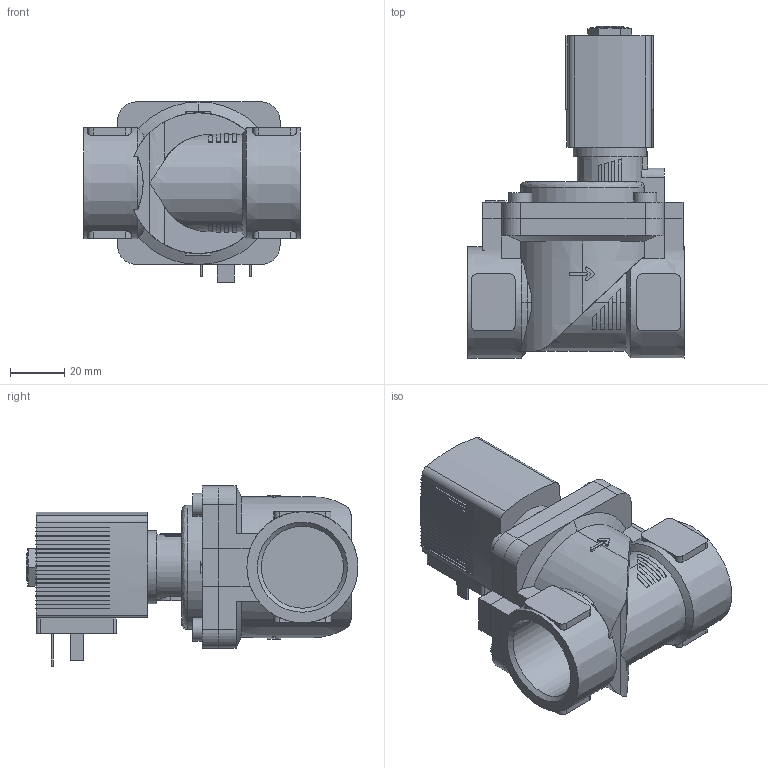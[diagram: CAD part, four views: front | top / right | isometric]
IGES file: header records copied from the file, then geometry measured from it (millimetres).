
Start section: Data from Parasolid IGES Translator 26.0.171, Copyright(c) 2006 Siemens PLM Software. All Rights Reserved.
Global section: file name: 6281-284878-2_2-Way_Solenoid_Valve__Servo-assisted__General_Purpose.igs; native system: By Siemens PLM Incorporated; preprocessor: XPlus GENERIC/IGES 26.0.171; author: Noname; organization: Noname; date: 20240520.131859; units: millimetre
Bounding box: 80 x 122.5 x 66.5 mm (x, y, z)
Surface area: 46973 mm2 (no closed solid volume)
Topology: 0 solids, 0 shells, 550 faces, 3060 edges, 3044 vertices
Faces by surface type: extrusion 428, revolution 122
